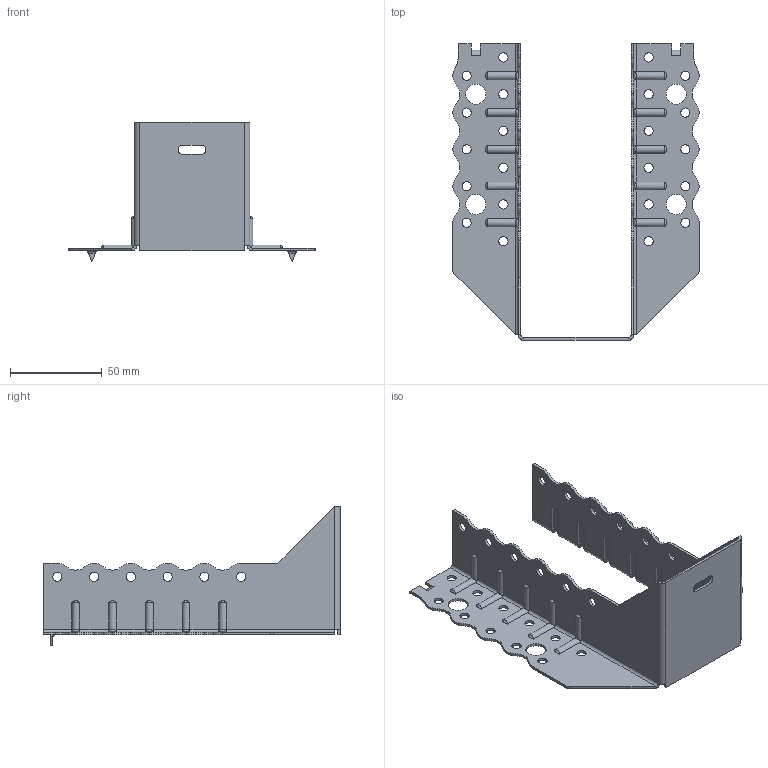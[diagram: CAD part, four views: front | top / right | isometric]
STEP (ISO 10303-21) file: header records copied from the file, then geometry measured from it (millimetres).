
FILE_DESCRIPTION (( 'STEP AP203' ), '1' );
FILE_NAME ('30616TOP.STEP', '2021-04-07T12:14:58', ( '' ), ( '' ), 'SwSTEP 2.0', 'SolidWorks 2013', '' );
FILE_SCHEMA (( 'CONFIG_CONTROL_DESIGN' ));
Length unit declared in the file: millimetre
Products named in the file (1): 30616TOP
Bounding box: 134 x 161.5 x 76 mm (x, y, z)
Volume: 38661.6 mm3; surface area: 54983.1 mm2
Topology: 1 solids, 1 shells, 428 faces, 1154 edges, 728 vertices
Faces by surface type: cylinder 269, plane 119, torus 20, bspline 20
Entity records: 15880 total; most frequent: CARTESIAN_POINT 5007, ORIENTED_EDGE 2308, DIRECTION 2228, EDGE_CURVE 1154, AXIS2_PLACEMENT_3D 813, VERTEX_POINT 728, LINE 602, VECTOR 602
